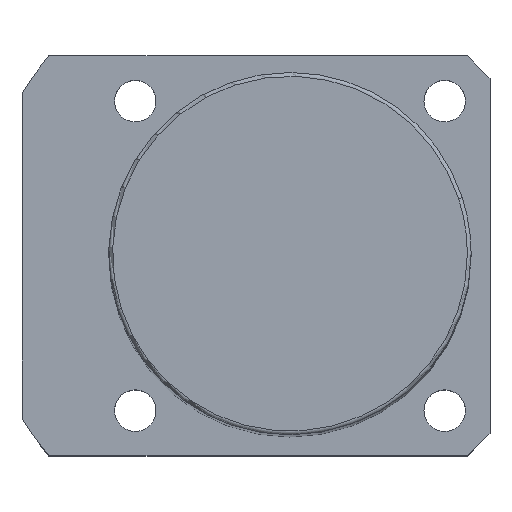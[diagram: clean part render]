
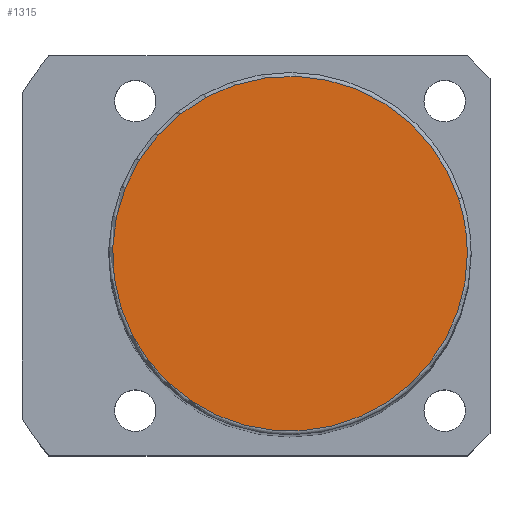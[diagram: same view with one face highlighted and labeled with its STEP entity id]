
A CAD part, top view. The second image highlights one B-rep face of the part: STEP entity #1315.
In plain terms, the highlighted planar face has unit normal (0, 0, 1).
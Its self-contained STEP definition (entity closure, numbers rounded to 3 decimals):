
#1281=CARTESIAN_POINT('',(23.5,0.0,179.0));
#1282=VERTEX_POINT('',#1281);
#1283=CARTESIAN_POINT('',(22.35,7.262,179.0));
#1284=VERTEX_POINT('',#1283);
#1285=CARTESIAN_POINT('',(0.0,0.0,179.0));
#1286=DIRECTION('',(0.0,0.0,1.0));
#1287=DIRECTION('',(1.0,0.0,0.0));
#1288=AXIS2_PLACEMENT_3D('',#1285,#1286,#1287);
#1289=CIRCLE('',#1288,23.5);
#1290=EDGE_CURVE('no 3320',#1282,#1284,#1289,.T.);
#1291=ORIENTED_EDGE('',*,*,#1290,.T.);
#1292=CARTESIAN_POINT('',(-22.35,-7.262,179.0));
#1293=VERTEX_POINT('',#1292);
#1294=CARTESIAN_POINT('',(0.0,0.0,179.0));
#1295=DIRECTION('',(0.0,0.0,1.0));
#1296=DIRECTION('',(1.0,0.0,0.0));
#1297=AXIS2_PLACEMENT_3D('',#1294,#1295,#1296);
#1298=CIRCLE('',#1297,23.5);
#1299=EDGE_CURVE('no 3326',#1284,#1293,#1298,.T.);
#1300=ORIENTED_EDGE('',*,*,#1299,.T.);
#1301=CARTESIAN_POINT('',(0.0,0.0,179.0));
#1302=DIRECTION('',(0.0,0.0,1.0));
#1303=DIRECTION('',(1.0,0.0,0.0));
#1304=AXIS2_PLACEMENT_3D('',#1301,#1302,#1303);
#1305=CIRCLE('',#1304,23.5);
#1306=EDGE_CURVE('no 3330',#1293,#1282,#1305,.T.);
#1307=ORIENTED_EDGE('',*,*,#1306,.T.);
#1308=EDGE_LOOP('',(#1291,#1300,#1307));
#1309=FACE_OUTER_BOUND('',#1308,.T.);
#1310=CARTESIAN_POINT('',(0.0,0.0,179.0));
#1311=DIRECTION('',(0.0,0.0,1.0));
#1312=DIRECTION('',(1.0,0.0,0.0));
#1313=AXIS2_PLACEMENT_3D('',#1310,#1311,#1312);
#1314=PLANE('',#1313);
#1315=ADVANCED_FACE('no 3311',(#1309),#1314,.T.);
